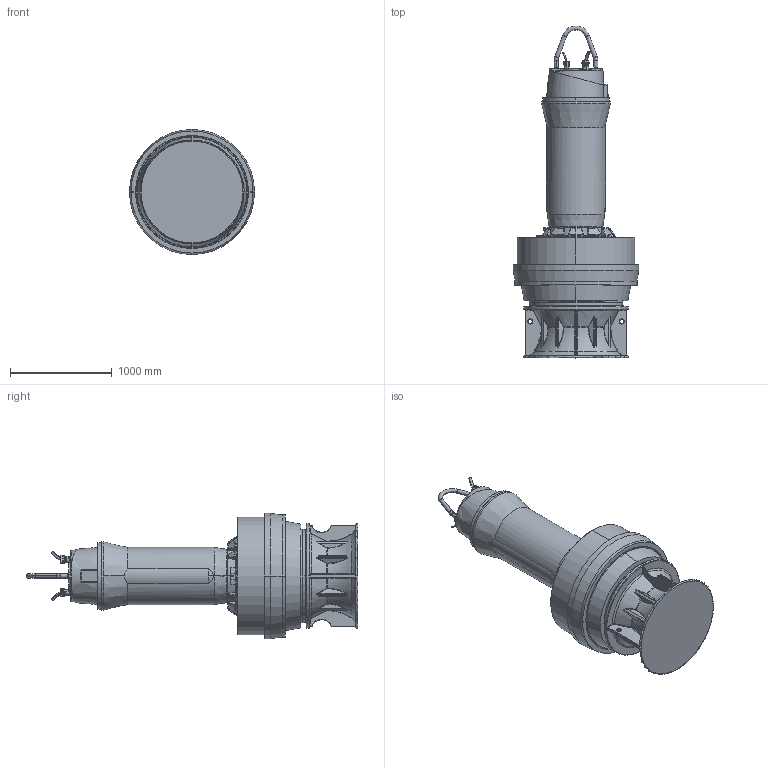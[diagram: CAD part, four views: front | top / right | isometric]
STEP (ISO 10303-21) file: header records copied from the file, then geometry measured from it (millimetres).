
FILE_DESCRIPTION (( 'STEP AP214' ), '1' );
FILE_NAME ('PE7_AFLX1203_STD_B.STEP', '2017-05-09T06:40:44', ( '' ), ( '' ), 'SwSTEP 2.0', 'SolidWorks 2017', '' );
FILE_SCHEMA (( 'AUTOMOTIVE_DESIGN' ));
Length unit declared in the file: millimetre
Products named in the file (1): PE7_AFLX1203_STD_B
Bounding box: 1230 x 3262.8 x 1230 mm (x, y, z)
Volume: 1366810980.2 mm3; surface area: 12317823.9 mm2
Topology: 3 solids, 22 shells, 2883 faces, 6924 edges, 3963 vertices
Faces by surface type: bspline 873, plane 667, cylinder 551, torus 373, cone 300, sphere 119
Entity records: 160049 total; most frequent: CARTESIAN_POINT 68666, ORIENTED_EDGE 13456, DIRECTION 11172, EDGE_CURVE 6728, AXIS2_PLACEMENT_3D 4618, VERTEX_POINT 3962, EDGE_LOOP 3018, UNCERTAINTY_MEASURE_WITH_UNIT 2888
